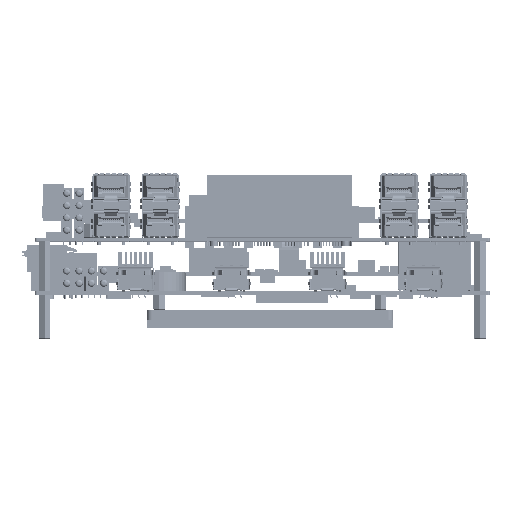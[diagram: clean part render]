
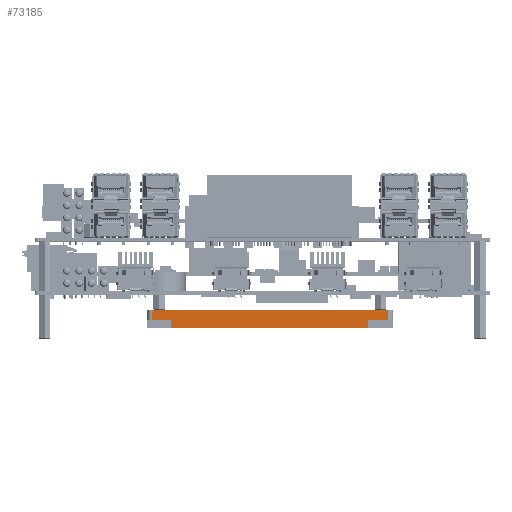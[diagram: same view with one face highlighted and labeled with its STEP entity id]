
A CAD part, top view. The second image highlights one B-rep face of the part: STEP entity #73185.
In plain terms, the highlighted planar face has unit normal (0, 0, 1).
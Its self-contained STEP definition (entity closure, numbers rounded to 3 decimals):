
#8808 = CARTESIAN_POINT ( 'NONE',  ( 34.493, -33.978, 19.611 ) ) ;
#9885 = CARTESIAN_POINT ( 'NONE',  ( -55.507, -30.978, 19.611 ) ) ;
#36015 = ORIENTED_EDGE ( 'NONE', *, *, #452889, .F. ) ;
#38235 = LINE ( 'NONE', #184041, #234512 ) ;
#39857 = VECTOR ( 'NONE', #41459, 1000. ) ;
#41459 = DIRECTION ( 'NONE',  ( 0., 1., 0. ) ) ;
#52626 = ORIENTED_EDGE ( 'NONE', *, *, #174157, .T. ) ;
#53196 = VERTEX_POINT ( 'NONE', #521159 ) ;
#58135 = CARTESIAN_POINT ( 'NONE',  ( -53.507, -30.978, 19.611 ) ) ;
#68470 = DIRECTION ( 'NONE',  ( 0., 0., -1. ) ) ;
#73185 = ADVANCED_FACE ( 'NONE', ( #415920 ), #560189, .F. ) ;
#74613 = VERTEX_POINT ( 'NONE', #452810 ) ;
#75729 = CARTESIAN_POINT ( 'NONE',  ( 42.493, -26.578, 19.611 ) ) ;
#79074 = LINE ( 'NONE', #463783, #422587 ) ;
#96077 = CARTESIAN_POINT ( 'NONE',  ( -55.507, -33.978, 19.611 ) ) ;
#116131 = ORIENTED_EDGE ( 'NONE', *, *, #232445, .F. ) ;
#122821 = VECTOR ( 'NONE', #230267, 1000. ) ;
#125173 = EDGE_CURVE ( 'NONE', #53196, #426648, #397499, .T. ) ;
#126630 = EDGE_CURVE ( 'NONE', #53196, #74613, #38235, .T. ) ;
#126960 = DIRECTION ( 'NONE',  ( 0., -1., 0. ) ) ;
#128121 = ORIENTED_EDGE ( 'NONE', *, *, #125173, .T. ) ;
#136095 = VECTOR ( 'NONE', #323182, 1000. ) ;
#144412 = EDGE_CURVE ( 'NONE', #402483, #353965, #374436, .T. ) ;
#156747 = CARTESIAN_POINT ( 'NONE',  ( -55.507, -33.978, 19.611 ) ) ;
#174157 = EDGE_CURVE ( 'NONE', #529371, #189396, #365809, .T. ) ;
#184041 = CARTESIAN_POINT ( 'NONE',  ( -55.507, -30.978, 19.611 ) ) ;
#189396 = VERTEX_POINT ( 'NONE', #288574 ) ;
#208581 = CARTESIAN_POINT ( 'NONE',  ( -53.507, -26.578, 19.611 ) ) ;
#230267 = DIRECTION ( 'NONE',  ( 0., -1., 0. ) ) ;
#232445 = EDGE_CURVE ( 'NONE', #74613, #189396, #242042, .T. ) ;
#234512 = VECTOR ( 'NONE', #407348, 1000. ) ;
#239497 = EDGE_CURVE ( 'NONE', #556433, #353965, #344040, .T. ) ;
#240183 = AXIS2_PLACEMENT_3D ( 'NONE', #156747, #68470, #381908 ) ;
#242042 = LINE ( 'NONE', #8808, #122821 ) ;
#256765 = EDGE_CURVE ( 'NONE', #426648, #556433, #79074, .T. ) ;
#257545 = LINE ( 'NONE', #454395, #362416 ) ;
#262180 = CARTESIAN_POINT ( 'NONE',  ( -53.507, -30.978, 19.611 ) ) ;
#266168 = ORIENTED_EDGE ( 'NONE', *, *, #256765, .T. ) ;
#288574 = CARTESIAN_POINT ( 'NONE',  ( 34.493, -33.978, 19.611 ) ) ;
#323182 = DIRECTION ( 'NONE',  ( -1., 0., 0. ) ) ;
#336812 = ORIENTED_EDGE ( 'NONE', *, *, #239497, .T. ) ;
#344040 = LINE ( 'NONE', #262180, #554326 ) ;
#353965 = VERTEX_POINT ( 'NONE', #58135 ) ;
#354789 = CARTESIAN_POINT ( 'NONE',  ( 42.493, -33.978, 19.611 ) ) ;
#362416 = VECTOR ( 'NONE', #409379, 1000. ) ;
#364334 = DIRECTION ( 'NONE',  ( 1., 0., 0. ) ) ;
#365809 = LINE ( 'NONE', #96077, #485150 ) ;
#365983 = ORIENTED_EDGE ( 'NONE', *, *, #144412, .F. ) ;
#374436 = LINE ( 'NONE', #9885, #136095 ) ;
#381908 = DIRECTION ( 'NONE',  ( 1., 0., 0. ) ) ;
#384216 = EDGE_LOOP ( 'NONE', ( #266168, #336812, #365983, #36015, #52626, #116131, #435936, #128121 ) ) ;
#397499 = LINE ( 'NONE', #354789, #39857 ) ;
#402483 = VERTEX_POINT ( 'NONE', #478262 ) ;
#407348 = DIRECTION ( 'NONE',  ( -1., 0., 0. ) ) ;
#409379 = DIRECTION ( 'NONE',  ( 0., 1., 0. ) ) ;
#415920 = FACE_OUTER_BOUND ( 'NONE', #384216, .T. ) ;
#422587 = VECTOR ( 'NONE', #508867, 1000. ) ;
#426648 = VERTEX_POINT ( 'NONE', #75729 ) ;
#435936 = ORIENTED_EDGE ( 'NONE', *, *, #126630, .F. ) ;
#452810 = CARTESIAN_POINT ( 'NONE',  ( 34.493, -30.978, 19.611 ) ) ;
#452889 = EDGE_CURVE ( 'NONE', #529371, #402483, #257545, .T. ) ;
#454395 = CARTESIAN_POINT ( 'NONE',  ( -45.507, -33.978, 19.611 ) ) ;
#463783 = CARTESIAN_POINT ( 'NONE',  ( -55.507, -26.578, 19.611 ) ) ;
#478262 = CARTESIAN_POINT ( 'NONE',  ( -45.507, -30.978, 19.611 ) ) ;
#485150 = VECTOR ( 'NONE', #364334, 1000. ) ;
#508867 = DIRECTION ( 'NONE',  ( -1., 0., 0. ) ) ;
#521159 = CARTESIAN_POINT ( 'NONE',  ( 42.493, -30.978, 19.611 ) ) ;
#529371 = VERTEX_POINT ( 'NONE', #559458 ) ;
#554326 = VECTOR ( 'NONE', #126960, 1000. ) ;
#556433 = VERTEX_POINT ( 'NONE', #208581 ) ;
#559458 = CARTESIAN_POINT ( 'NONE',  ( -45.507, -33.978, 19.611 ) ) ;
#560189 = PLANE ( 'NONE',  #240183 ) ;
